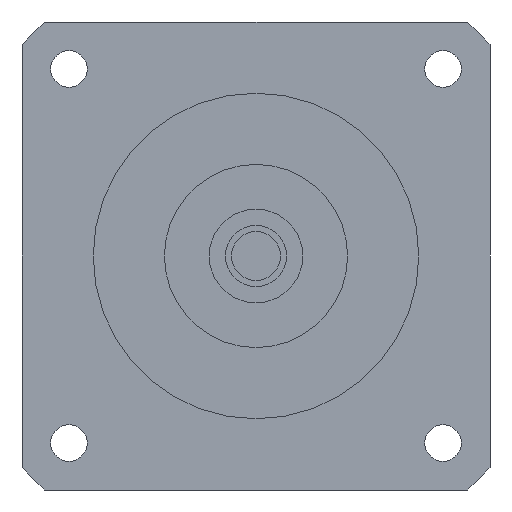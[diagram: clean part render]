
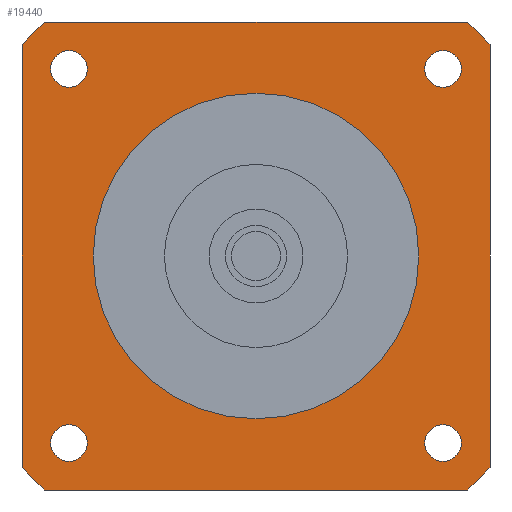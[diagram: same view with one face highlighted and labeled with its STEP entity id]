
A CAD part, left-side view. The second image highlights one B-rep face of the part: STEP entity #19440.
In plain terms, the highlighted planar face has unit normal (-1, 0, 0) as drawn and (0, 0, -1) by its records, which use the part's own axes.
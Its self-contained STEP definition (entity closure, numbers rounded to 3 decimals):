
#14270=CARTESIAN_POINT('',(-51.962,57.5,-43.));
#14280=VERTEX_POINT('',#14270);
#14440=CARTESIAN_POINT('',(-57.5,51.962,-43.));
#14450=VERTEX_POINT('',#14440);
#14480=CARTESIAN_POINT('',(0.,0.,
-43.));
#14490=DIRECTION('',(0.,0.,-1.));
#14500=DIRECTION('',(-1.,0.,0.));
#14510=AXIS2_PLACEMENT_3D('',#14480,#14490,#14500);
#14520=CIRCLE('',#14510,77.5);
#14530=EDGE_CURVE('',#14450,#14280,#14520,.T.);
#17910=CARTESIAN_POINT('',(50.462,-45.962,-43.));
#17920=VERTEX_POINT('',#17910);
#17950=CARTESIAN_POINT('',(45.962,-45.962,-43.));
#17960=DIRECTION('',(0.,0.,-1.));
#17970=DIRECTION('',(1.,0.,0.));
#17980=AXIS2_PLACEMENT_3D('',#17950,#17960,#17970);
#17990=CIRCLE('',#17980,4.5);
#18000=CARTESIAN_POINT('',(41.462,-45.962,-43.));
#18010=VERTEX_POINT('',#18000);
#18020=EDGE_CURVE('',#18010,#17920,#17990,.T.);
#18140=CARTESIAN_POINT('',(0.,0.,
-43.));
#18150=DIRECTION('',(0.,0.,-1.));
#18160=DIRECTION('',(1.,0.,0.));
#18170=AXIS2_PLACEMENT_3D('',#18140,#18150,#18160);
#18180=PLANE('',#18170);
#18190=CARTESIAN_POINT('',(45.962,45.962,-43.));
#18200=DIRECTION('',(0.,0.,-1.));
#18210=DIRECTION('',(1.,0.,0.));
#18220=AXIS2_PLACEMENT_3D('',#18190,#18200,#18210);
#18230=CIRCLE('',#18220,4.5);
#18240=CARTESIAN_POINT('',(50.462,45.962,-43.));
#18250=VERTEX_POINT('',#18240);
#18260=CARTESIAN_POINT('',(41.462,45.962,-43.));
#18270=VERTEX_POINT('',#18260);
#18280=EDGE_CURVE('',#18250,#18270,#18230,.T.);
#18290=ORIENTED_EDGE('',*,*,#18280,.F.);
#18300=EDGE_CURVE('',#18270,#18250,#18230,.T.);
#18310=ORIENTED_EDGE('',*,*,#18300,.F.);
#18320=EDGE_LOOP('',(#18310,#18290));
#18330=FACE_BOUND('',#18320,.T.);
#18340=CARTESIAN_POINT('',(-45.962,45.962,-43.));
#18350=DIRECTION('',(0.,0.,-1.));
#18360=DIRECTION('',(1.,0.,0.));
#18370=AXIS2_PLACEMENT_3D('',#18340,#18350,#18360);
#18380=CIRCLE('',#18370,4.5);
#18390=CARTESIAN_POINT('',(-41.462,45.962,-43.));
#18400=VERTEX_POINT('',#18390);
#18410=CARTESIAN_POINT('',(-50.462,45.962,-43.));
#18420=VERTEX_POINT('',#18410);
#18430=EDGE_CURVE('',#18400,#18420,#18380,.T.);
#18440=ORIENTED_EDGE('',*,*,#18430,.F.);
#18450=EDGE_CURVE('',#18420,#18400,#18380,.T.);
#18460=ORIENTED_EDGE('',*,*,#18450,.F.);
#18470=EDGE_LOOP('',(#18460,#18440));
#18480=FACE_BOUND('',#18470,.T.);
#18490=CARTESIAN_POINT('',(0.,0.,
-43.));
#18500=DIRECTION('',(0.,0.,1.));
#18510=DIRECTION('',(1.,0.,0.));
#18520=AXIS2_PLACEMENT_3D('',#18490,#18500,#18510);
#18530=CIRCLE('',#18520,40.);
#18540=CARTESIAN_POINT('',(40.,0.,-43.));
#18550=VERTEX_POINT('',#18540);
#18560=CARTESIAN_POINT('',(-40.,0.,-43.));
#18570=VERTEX_POINT('',#18560);
#18580=EDGE_CURVE('',#18550,#18570,#18530,.T.);
#18590=ORIENTED_EDGE('',*,*,#18580,.T.);
#18600=EDGE_CURVE('',#18570,#18550,#18530,.T.);
#18610=ORIENTED_EDGE('',*,*,#18600,.T.);
#18620=EDGE_LOOP('',(#18610,#18590));
#18630=FACE_BOUND('',#18620,.T.);
#18640=CARTESIAN_POINT('',(-45.962,-45.962,-43.));
#18650=DIRECTION('',(0.,0.,-1.));
#18660=DIRECTION('',(1.,0.,0.));
#18670=AXIS2_PLACEMENT_3D('',#18640,#18650,#18660);
#18680=CIRCLE('',#18670,4.5);
#18690=CARTESIAN_POINT('',(-41.462,-45.962,-43.));
#18700=VERTEX_POINT('',#18690);
#18710=CARTESIAN_POINT('',(-50.462,-45.962,-43.));
#18720=VERTEX_POINT('',#18710);
#18730=EDGE_CURVE('',#18700,#18720,#18680,.T.);
#18740=ORIENTED_EDGE('',*,*,#18730,.F.);
#18750=EDGE_CURVE('',#18720,#18700,#18680,.T.);
#18760=ORIENTED_EDGE('',*,*,#18750,.F.);
#18770=EDGE_LOOP('',(#18760,#18740));
#18780=FACE_BOUND('',#18770,.T.);
#18790=EDGE_CURVE('',#17920,#18010,#17990,.T.);
#18800=ORIENTED_EDGE('',*,*,#18790,.F.);
#18810=ORIENTED_EDGE('',*,*,#18020,.F.);
#18820=EDGE_LOOP('',(#18810,#18800));
#18830=FACE_BOUND('',#18820,.T.);
#18840=CARTESIAN_POINT('',(57.5,-57.5,-43.));
#18850=DIRECTION('',(-1.,0.,0.));
#18860=VECTOR('',#18850,1000.);
#18870=LINE('',#18840,#18860);
#18880=CARTESIAN_POINT('',(51.962,-57.5,-43.));
#18890=VERTEX_POINT('',#18880);
#18900=CARTESIAN_POINT('',(-51.962,-57.5,-43.));
#18910=VERTEX_POINT('',#18900);
#18920=EDGE_CURVE('',#18890,#18910,#18870,.T.);
#18930=ORIENTED_EDGE('',*,*,#18920,.T.);
#18940=CARTESIAN_POINT('',(0.,0.,
-43.));
#18950=DIRECTION('',(0.,0.,-1.));
#18960=DIRECTION('',(-1.,0.,0.));
#18970=AXIS2_PLACEMENT_3D('',#18940,#18950,#18960);
#18980=CIRCLE('',#18970,77.5);
#18990=CARTESIAN_POINT('',(57.5,-51.962,-43.));
#19000=VERTEX_POINT('',#18990);
#19010=EDGE_CURVE('',#19000,#18890,#18980,.T.);
#19020=ORIENTED_EDGE('',*,*,#19010,.T.);
#19030=CARTESIAN_POINT('',(57.5,57.5,-43.));
#19040=DIRECTION('',(0.,-1.,0.));
#19050=VECTOR('',#19040,1000.);
#19060=LINE('',#19030,#19050);
#19070=CARTESIAN_POINT('',(57.5,51.962,-43.));
#19080=VERTEX_POINT('',#19070);
#19090=EDGE_CURVE('',#19080,#19000,#19060,.T.);
#19100=ORIENTED_EDGE('',*,*,#19090,.T.);
#19110=CARTESIAN_POINT('',(0.,0.,
-43.));
#19120=DIRECTION('',(0.,0.,-1.));
#19130=DIRECTION('',(-1.,0.,0.));
#19140=AXIS2_PLACEMENT_3D('',#19110,#19120,#19130);
#19150=CIRCLE('',#19140,77.5);
#19160=CARTESIAN_POINT('',(51.962,57.5,-43.));
#19170=VERTEX_POINT('',#19160);
#19180=EDGE_CURVE('',#19170,#19080,#19150,.T.);
#19190=ORIENTED_EDGE('',*,*,#19180,.T.);
#19200=CARTESIAN_POINT('',(-57.5,57.5,-43.));
#19210=DIRECTION('',(1.,0.,0.));
#19220=VECTOR('',#19210,1000.);
#19230=LINE('',#19200,#19220);
#19240=EDGE_CURVE('',#14280,#19170,#19230,.T.);
#19250=ORIENTED_EDGE('',*,*,#19240,.T.);
#19260=ORIENTED_EDGE('',*,*,#14530,.T.);
#19270=CARTESIAN_POINT('',(-57.5,-57.5,-43.));
#19280=DIRECTION('',(0.,1.,0.));
#19290=VECTOR('',#19280,1000.);
#19300=LINE('',#19270,#19290);
#19310=CARTESIAN_POINT('',(-57.5,-51.962,-43.));
#19320=VERTEX_POINT('',#19310);
#19330=EDGE_CURVE('',#19320,#14450,#19300,.T.);
#19340=ORIENTED_EDGE('',*,*,#19330,.T.);
#19350=CARTESIAN_POINT('',(0.,0.,
-43.));
#19360=DIRECTION('',(0.,0.,-1.));
#19370=DIRECTION('',(-1.,0.,0.));
#19380=AXIS2_PLACEMENT_3D('',#19350,#19360,#19370);
#19390=CIRCLE('',#19380,77.5);
#19400=EDGE_CURVE('',#18910,#19320,#19390,.T.);
#19410=ORIENTED_EDGE('',*,*,#19400,.T.);
#19420=EDGE_LOOP('',(#19410,#19340,#19260,#19250,#19190,#19100,#19020,
#18930));
#19430=FACE_OUTER_BOUND('',#19420,.T.);
#19440=ADVANCED_FACE('',(#18330,#18480,#18630,#18780,#18830,#19430),
#18180,.T.);
